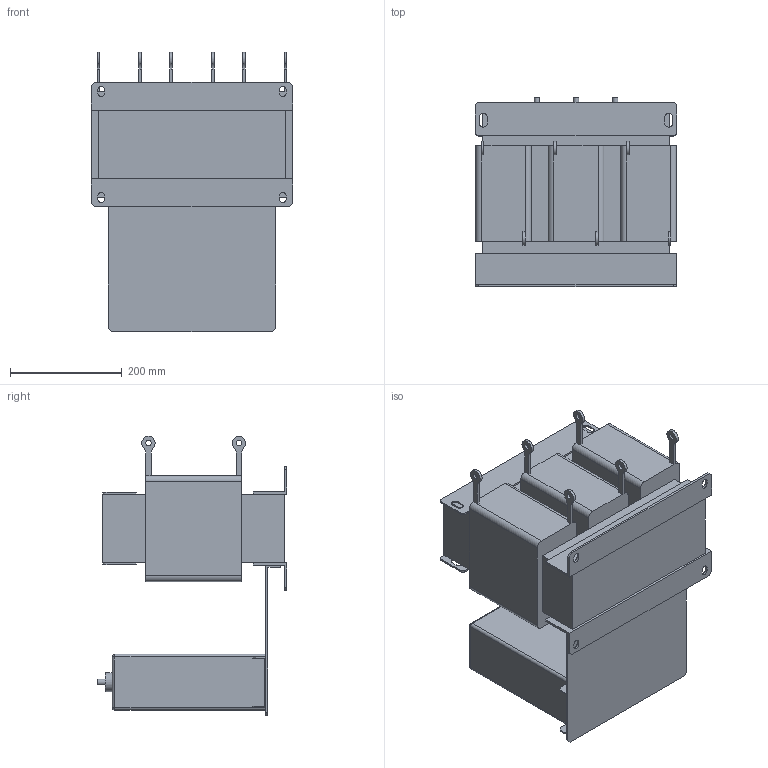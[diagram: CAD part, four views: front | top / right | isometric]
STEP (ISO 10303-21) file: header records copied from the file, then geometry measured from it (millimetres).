
FILE_DESCRIPTION(/* description */ (''),/* implementation_level */ '2;1');
FILE_NAME(/* name */ 'Sin-T6-170.stp',/* time_stamp */ '2025-03-05T16:59:53+04:00',/* author */ ('Лео'),/* organization */ (''),/* preprocessor_version */ 'ST-DEVELOPER v19.2',/* originating_system */ 'Autodesk Inventor 2024',/* authorisation */ '');
FILE_SCHEMA (('AUTOMOTIVE_DESIGN { 1 0 10303 214 3 1 1 }'));
Length unit declared in the file: millimetre
Products named in the file (1): Sin-T4-004
Bounding box: 360 x 340 x 499.96 mm (x, y, z)
Volume: 23684582 mm3; surface area: 1413438.6 mm2
Topology: 19 solids, 19 shells, 234 faces, 570 edges, 375 vertices
Faces by surface type: plane 152, cylinder 78, sphere 4
Full cylindrical faces by diameter (mm): 10 x9, 34 x3
Entity records: 6946 total; most frequent: DIRECTION 1196, CARTESIAN_POINT 1180, ORIENTED_EDGE 1140, EDGE_CURVE 570, LINE 414, VECTOR 414, AXIS2_PLACEMENT_3D 391, VERTEX_POINT 374
